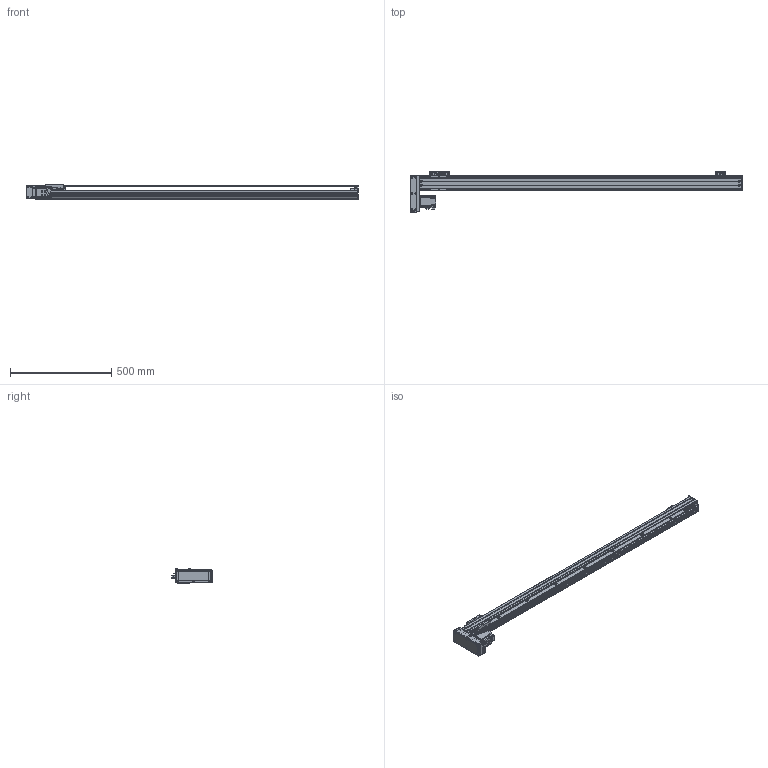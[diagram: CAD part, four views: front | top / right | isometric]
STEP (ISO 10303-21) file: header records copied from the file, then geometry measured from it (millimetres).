
FILE_DESCRIPTION(/* description */ (''),/* implementation_level */ '2;1');
FILE_NAME(/* name */ '\\192.168.0.160\disk1\HAN SHIN Master\B-설계부문\C-표준\B-2024년\BC02-표준도면\+로봇 개선표준도면\홈페이지 표준 도면\홈페이지 최종 작업 폴더\3D\HR\HR75\HR75병렬\우병렬\HR75-R20-N1B-1400-L10.stp',/* time_stamp */ '2025-01-18T16:52:38+09:00',/* author */ ('user'),/* organization */ (''),/* preprocessor_version */ 'ST-DEVELOPER v18.1',/* originating_system */ 'Autodesk Inventor 2022',/* authorisation */ '');
FILE_SCHEMA (('CONFIG_CONTROL_DESIGN'));
Products named in the file (23): HG75-L20-N1B-0500-R10 - 간소화; BASE; HR75 FRONT BLOCK; HR75 REAR COVER-TENTION; HR75 TENSION REAR BLOCK; HG3UPCOV001; H 15F_BLOCK; HG90STOPPER - 20L; HG90STOPPER - 27L; MOTOR PLATE-200W(MITSUBISHI); 화살표; hg-kr23_; M-5HL-4; HR75 W TABLE; LMKE1520 NUT; HR75-LR-BELT COVER(200W); HR75-BELT COVER-COVER2; HR75-BELT COVER-COVER; HR65-BELT COVER-COVER3; HC75-LR-MOTOR PLATE(200W)-사출_MIR; HR65,75 SENSOR DOG; EE_SX674A; SENSOR BRK(EE-SX674A)
Assembly tree (28 placements, depth 2):
  HG75-L20-N1B-0500-R10 - 간소화
    BASE
    HR75 FRONT BLOCK
    HR75 REAR COVER-TENTION
    HR75 TENSION REAR BLOCK
    HG3UPCOV001
    H 15F_BLOCK
    HG90STOPPER - 20L
    HG90STOPPER - 27L
    MOTOR PLATE-200W(MITSUBISHI)
    화살표  x2
    hg-kr23_
    M-5HL-4
    HR75 W TABLE
    LMKE1520 NUT
    SENSOR BRK(EE-SX674A)  x3
    EE_SX674A  x3
    HR75-LR-BELT COVER(200W)
    HR75-BELT COVER-COVER2
    HR75-BELT COVER-COVER
    HR65-BELT COVER-COVER3  x2
    HC75-LR-MOTOR PLATE(200W)-사출_MIR
    HR65,75 SENSOR DOG
Bounding box: 1639 x 199 x 73 mm (x, y, z)
Volume: 2374559.9 mm3; surface area: 1103473.1 mm2
Topology: 28 solids, 28 shells, 2966 faces, 8165 edges, 5397 vertices
Faces by surface type: plane 2187, cylinder 664, cone 107, sphere 8
Full cylindrical faces by diameter (mm): 1.8 x1, 2 x4, 2.013 x2, 2.459 x16, 2.5 x2, 3 x8, 3.242 x72, 3.4 x20, 3.5 x6, 4.134 x52, 4.5 x22, 4.917 x5, 5 x31, 5.5 x36, 5.6 x8, 5.8 x4, 5.9 x8, 6 x4, 6.5 x1, 7 x1, 8 x1, 9.5 x32, 14 x1, 15 x3, 17 x1, 20 x1, 25 x2, 28 x1, 32 x2, 33.7 x1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
Entity records: 91416 total; most frequent: CARTESIAN_POINT 16184, ORIENTED_EDGE 15214, DIRECTION 14522, EDGE_CURVE 7607, LINE 6212, VECTOR 6212, VERTEX_POINT 5065, AXIS2_PLACEMENT_3D 4155
